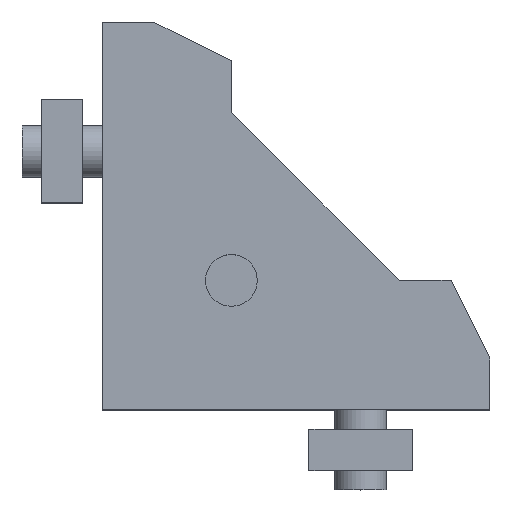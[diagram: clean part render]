
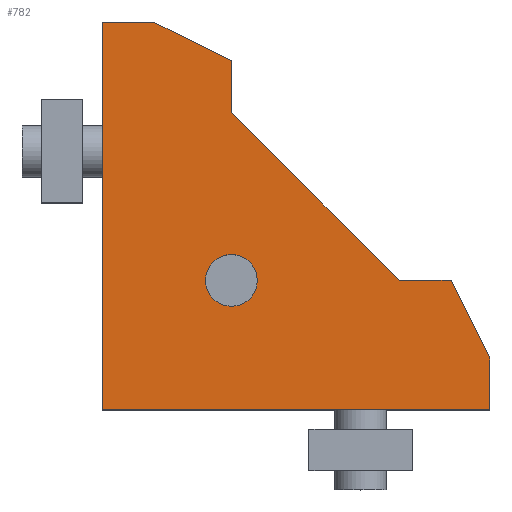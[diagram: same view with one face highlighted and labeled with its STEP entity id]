
A CAD part, top view. The second image highlights one B-rep face of the part: STEP entity #782.
In plain terms, the highlighted planar face has unit normal (0, 0, 1).
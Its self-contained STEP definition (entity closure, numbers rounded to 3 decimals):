
#168=CARTESIAN_POINT('',(12.,10.0,7.5));
#169=VERTEX_POINT('',#168);
#170=CARTESIAN_POINT('',(10.0,10.0,7.5));
#171=DIRECTION('',(0.0,0.0,-1.0));
#172=DIRECTION('',(1.0,0.0,0.0));
#173=AXIS2_PLACEMENT_3D('',#170,#171,#172);
#174=CIRCLE('',#173,2.0);
#175=EDGE_CURVE('',#169,#169,#174,.T.);
#382=CARTESIAN_POINT('',(27.0,10.0,7.5));
#383=VERTEX_POINT('',#382);
#390=CARTESIAN_POINT('',(30.0,4.0,7.5));
#391=VERTEX_POINT('',#390);
#392=CARTESIAN_POINT('',(27.0,10.0,7.5));
#393=DIRECTION('',(0.447,-0.894,0.0));
#394=VECTOR('',#393,6.708);
#395=LINE('',#392,#394);
#396=EDGE_CURVE('',#383,#391,#395,.T.);
#420=CARTESIAN_POINT('',(23.,10.0,7.5));
#421=VERTEX_POINT('',#420);
#428=CARTESIAN_POINT('',(23.,10.0,7.5));
#429=DIRECTION('',(1.0,0.0,0.0));
#430=VECTOR('',#429,4.);
#431=LINE('',#428,#430);
#432=EDGE_CURVE('',#421,#383,#431,.T.);
#451=CARTESIAN_POINT('',(10.0,23.,7.5));
#452=VERTEX_POINT('',#451);
#459=CARTESIAN_POINT('',(10.0,23.,7.5));
#460=DIRECTION('',(0.707,-0.707,0.0));
#461=VECTOR('',#460,18.385);
#462=LINE('',#459,#461);
#463=EDGE_CURVE('',#452,#421,#462,.T.);
#482=CARTESIAN_POINT('',(10.0,27.0,7.5));
#483=VERTEX_POINT('',#482);
#490=CARTESIAN_POINT('',(10.0,27.0,7.5));
#491=DIRECTION('',(0.0,-1.0,0.0));
#492=VECTOR('',#491,4.);
#493=LINE('',#490,#492);
#494=EDGE_CURVE('',#483,#452,#493,.T.);
#513=CARTESIAN_POINT('',(4.0,30.0,7.5));
#514=VERTEX_POINT('',#513);
#521=CARTESIAN_POINT('',(4.0,30.0,7.5));
#522=DIRECTION('',(0.894,-0.447,0.0));
#523=VECTOR('',#522,6.708);
#524=LINE('',#521,#523);
#525=EDGE_CURVE('',#514,#483,#524,.T.);
#669=CARTESIAN_POINT('',(0.0,0.0,7.5));
#670=VERTEX_POINT('',#669);
#671=CARTESIAN_POINT('',(0.0,30.0,7.5));
#672=VERTEX_POINT('',#671);
#673=CARTESIAN_POINT('',(0.0,0.0,7.5));
#674=DIRECTION('',(0.0,1.0,0.0));
#675=VECTOR('',#674,30.0);
#676=LINE('',#673,#675);
#677=EDGE_CURVE('',#670,#672,#676,.T.);
#703=CARTESIAN_POINT('',(0.0,30.0,7.5));
#704=DIRECTION('',(1.0,0.0,0.0));
#705=VECTOR('',#704,4.0);
#706=LINE('',#703,#705);
#707=EDGE_CURVE('',#672,#514,#706,.T.);
#722=CARTESIAN_POINT('',(30.0,0.0,7.5));
#723=VERTEX_POINT('',#722);
#724=CARTESIAN_POINT('',(30.0,4.0,7.5));
#725=DIRECTION('',(0.0,-1.0,0.0));
#726=VECTOR('',#725,4.0);
#727=LINE('',#724,#726);
#728=EDGE_CURVE('',#391,#723,#727,.T.);
#748=CARTESIAN_POINT('',(30.0,0.0,7.5));
#749=DIRECTION('',(-1.0,0.0,0.0));
#750=VECTOR('',#749,30.0);
#751=LINE('',#748,#750);
#752=EDGE_CURVE('',#723,#670,#751,.T.);
#763=CARTESIAN_POINT('',(11.683,11.683,7.5));
#764=DIRECTION('',(0.0,0.0,1.0));
#765=DIRECTION('',(1.0,0.0,0.0));
#766=AXIS2_PLACEMENT_3D('',#763,#764,#765);
#767=PLANE('',#766);
#768=ORIENTED_EDGE('',*,*,#677,.F.);
#769=ORIENTED_EDGE('',*,*,#752,.F.);
#770=ORIENTED_EDGE('',*,*,#728,.F.);
#771=ORIENTED_EDGE('',*,*,#396,.F.);
#772=ORIENTED_EDGE('',*,*,#432,.F.);
#773=ORIENTED_EDGE('',*,*,#463,.F.);
#774=ORIENTED_EDGE('',*,*,#494,.F.);
#775=ORIENTED_EDGE('',*,*,#525,.F.);
#776=ORIENTED_EDGE('',*,*,#707,.F.);
#777=EDGE_LOOP('',(#768,#769,#770,#771,#772,#773,#774,#775,#776));
#778=FACE_OUTER_BOUND('',#777,.T.);
#779=ORIENTED_EDGE('',*,*,#175,.T.);
#780=EDGE_LOOP('',(#779));
#781=FACE_BOUND('',#780,.T.);
#782=ADVANCED_FACE('',(#778,#781),#767,.T.);
